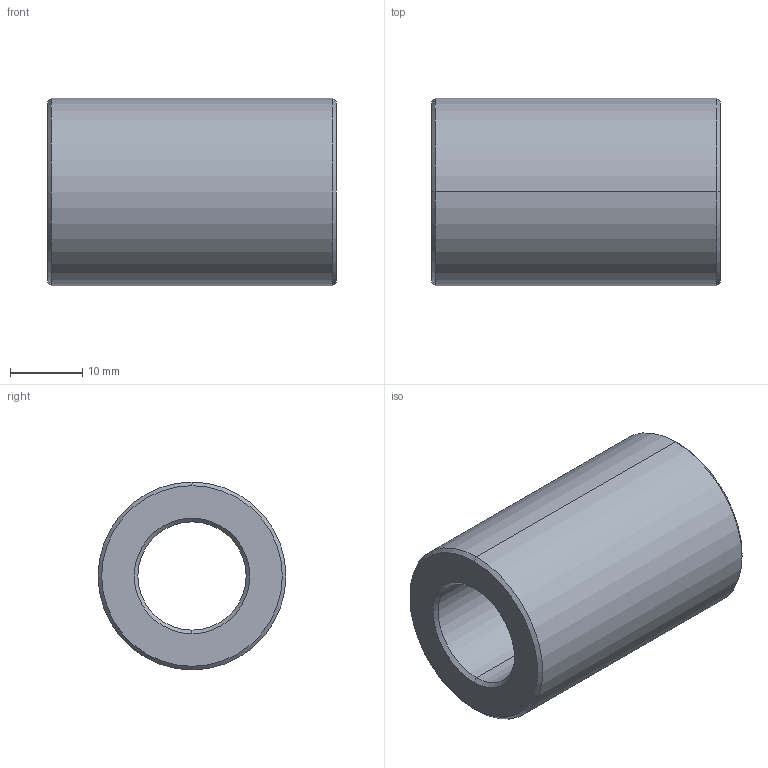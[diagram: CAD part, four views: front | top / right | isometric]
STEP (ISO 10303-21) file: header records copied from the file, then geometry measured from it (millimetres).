
FILE_DESCRIPTION (( 'STEP AP203' ), '1' );
FILE_NAME ('Muffe M16.STEP', '2018-02-22T09:16:10', ( 'install' ), ( 'Hewlett-Packard Company' ), 'SwSTEP 2.0', 'SolidWorks 2017', '' );
FILE_SCHEMA (( 'CONFIG_CONTROL_DESIGN' ));
Length unit declared in the file: millimetre
Products named in the file (1): Muffe M16
Bounding box: 40 x 26 x 26 mm (x, y, z)
Volume: 14136.4 mm3; surface area: 5785.2 mm2
Topology: 1 solids, 1 shells, 14 faces, 28 edges, 16 vertices
Faces by surface type: cone 8, cylinder 4, plane 2
Entity records: 445 total; most frequent: DIRECTION 74, CARTESIAN_POINT 59, ORIENTED_EDGE 56, AXIS2_PLACEMENT_3D 31, EDGE_CURVE 28, EDGE_LOOP 16, CIRCLE 16, VERTEX_POINT 16
